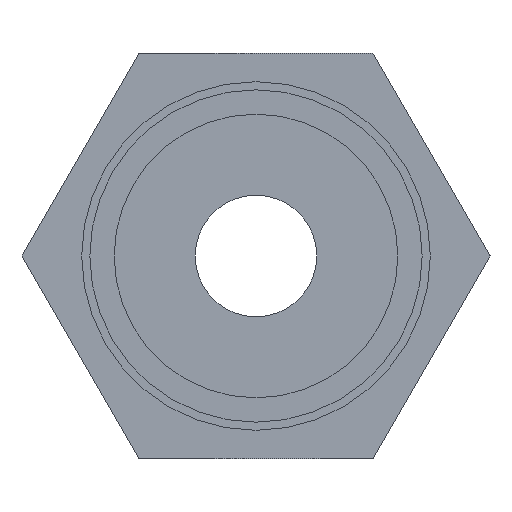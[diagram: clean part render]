
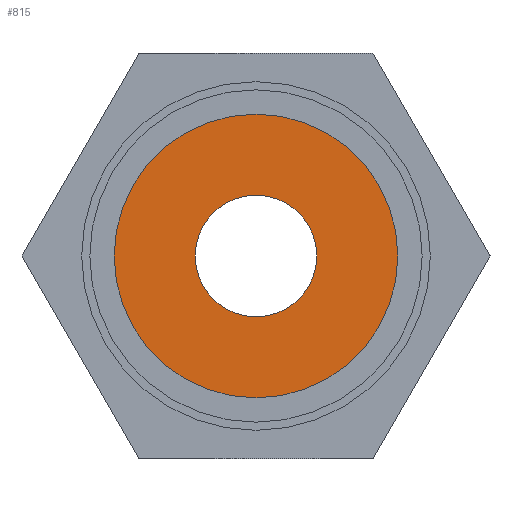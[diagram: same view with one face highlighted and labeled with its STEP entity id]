
A CAD part, left-side view. The second image highlights one B-rep face of the part: STEP entity #815.
In plain terms, the highlighted planar face has unit normal (-1, 0, 0).
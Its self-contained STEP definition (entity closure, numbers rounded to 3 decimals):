
#21 = VERTEX_POINT ( 'NONE', #553 ) ;
#109 = VERTEX_POINT ( 'NONE', #458 ) ;
#157 = DIRECTION ( 'NONE',  ( 0., 0., -1. ) ) ;
#163 = DIRECTION ( 'NONE',  ( 1., 0., 0. ) ) ;
#187 = AXIS2_PLACEMENT_3D ( 'NONE', #516, #595, #365 ) ;
#196 = VERTEX_POINT ( 'NONE', #767 ) ;
#201 = EDGE_CURVE ( 'NONE', #988, #196, #347, .T. ) ;
#203 = ORIENTED_EDGE ( 'NONE', *, *, #426, .F. ) ;
#222 = PLANE ( 'NONE',  #379 ) ;
#294 = CARTESIAN_POINT ( 'NONE',  ( 0., 0., 17.5 ) ) ;
#347 = CIRCLE ( 'NONE', #187, 17.5 ) ;
#365 = DIRECTION ( 'NONE',  ( 0., 0., 1. ) ) ;
#379 = AXIS2_PLACEMENT_3D ( 'NONE', #469, #163, #157 ) ;
#395 = DIRECTION ( 'NONE',  ( 0., 0., 1. ) ) ;
#418 = ORIENTED_EDGE ( 'NONE', *, *, #201, .T. ) ;
#426 = EDGE_CURVE ( 'NONE', #109, #21, #592, .T. ) ;
#441 = AXIS2_PLACEMENT_3D ( 'NONE', #928, #789, #395 ) ;
#450 = DIRECTION ( 'NONE',  ( 0., 0., 1. ) ) ;
#458 = CARTESIAN_POINT ( 'NONE',  ( 0., 0., -7.5 ) ) ;
#461 = AXIS2_PLACEMENT_3D ( 'NONE', #751, #713, #703 ) ;
#469 = CARTESIAN_POINT ( 'NONE',  ( 0., 0., 0. ) ) ;
#516 = CARTESIAN_POINT ( 'NONE',  ( 0., 0., 0. ) ) ;
#530 = CARTESIAN_POINT ( 'NONE',  ( 0., 0., 0. ) ) ;
#536 = EDGE_LOOP ( 'NONE', ( #418, #679 ) ) ;
#553 = CARTESIAN_POINT ( 'NONE',  ( 0., 0., 7.5 ) ) ;
#592 = CIRCLE ( 'NONE', #441, 7.5 ) ;
#595 = DIRECTION ( 'NONE',  ( -1., 0., 0. ) ) ;
#618 = CIRCLE ( 'NONE', #852, 17.5 ) ;
#679 = ORIENTED_EDGE ( 'NONE', *, *, #971, .T. ) ;
#698 = EDGE_CURVE ( 'NONE', #21, #109, #885, .T. ) ;
#703 = DIRECTION ( 'NONE',  ( 0., 0., 1. ) ) ;
#713 = DIRECTION ( 'NONE',  ( -1., 0., 0. ) ) ;
#722 = ORIENTED_EDGE ( 'NONE', *, *, #698, .F. ) ;
#751 = CARTESIAN_POINT ( 'NONE',  ( 0., 0., 0. ) ) ;
#767 = CARTESIAN_POINT ( 'NONE',  ( 0., 0., -17.5 ) ) ;
#789 = DIRECTION ( 'NONE',  ( -1., 0., 0. ) ) ;
#794 = EDGE_LOOP ( 'NONE', ( #722, #203 ) ) ;
#815 = ADVANCED_FACE ( 'NONE', ( #834, #970 ), #222, .F. ) ;
#834 = FACE_BOUND ( 'NONE', #794, .T. ) ;
#852 = AXIS2_PLACEMENT_3D ( 'NONE', #530, #992, #450 ) ;
#885 = CIRCLE ( 'NONE', #461, 7.5 ) ;
#928 = CARTESIAN_POINT ( 'NONE',  ( 0., 0., 0. ) ) ;
#970 = FACE_OUTER_BOUND ( 'NONE', #536, .T. ) ;
#971 = EDGE_CURVE ( 'NONE', #196, #988, #618, .T. ) ;
#988 = VERTEX_POINT ( 'NONE', #294 ) ;
#992 = DIRECTION ( 'NONE',  ( -1., 0., 0. ) ) ;
